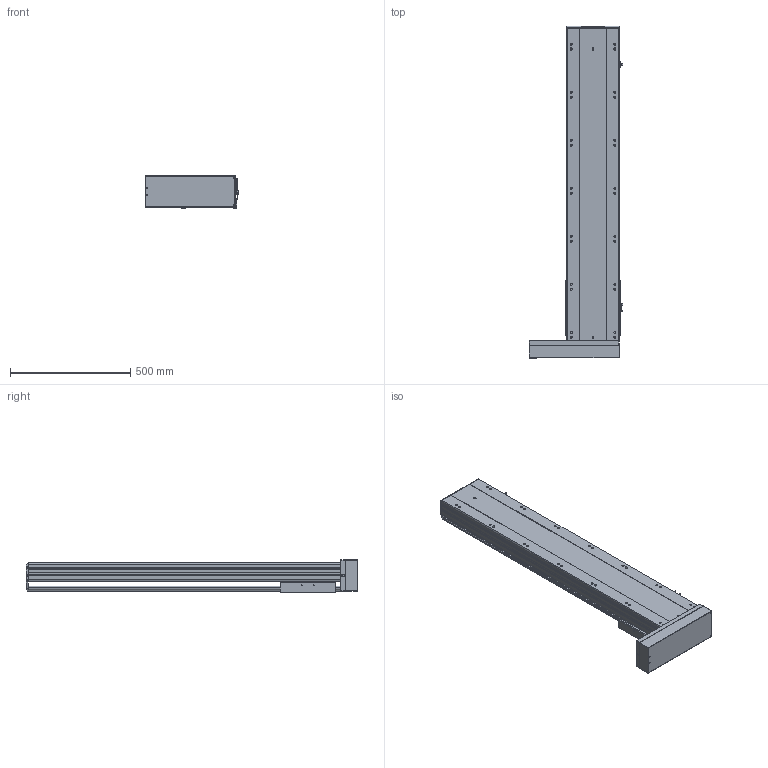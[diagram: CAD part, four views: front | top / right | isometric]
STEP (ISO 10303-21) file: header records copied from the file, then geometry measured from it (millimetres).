
FILE_DESCRIPTION (( 'STEP AP203' ), '1' );
FILE_NAME ('100.STEP', '2022-07-01T12:47:24', ( '' ), ( '' ), 'SwSTEP 2.0', 'SolidWorks 2016', '' );
FILE_SCHEMA (( 'CONFIG_CONTROL_DESIGN' ));
Products named in the file (7): BTH22-BL-04; BTH22-BL-菁釱; H130-PCD145; BTH22-BL-01; BTH22-BL-HZ; 100; BTH22-BL-06-PCD145
Assembly tree (8 placements, depth 2):
  100
    BTH22-BL-菁釱
    BTH22-BL-01
    BTH22-BL-04  x3
    BTH22-BL-HZ
    BTH22-BL-06-PCD145
    H130-PCD145
Bounding box: 389.2 x 1382 x 134 mm (x, y, z)
Volume: 17024422.2 mm3; surface area: 2316728.3 mm2
Topology: 10 solids, 10 shells, 1181 faces, 3273 edges, 2131 vertices
Faces by surface type: plane 634, cylinder 419, bspline 86, cone 42
Entity records: 122774 total; most frequent: CARTESIAN_POINT 56371, ORIENTED_EDGE 14165, DIRECTION 12490, EDGE_CURVE 7588, VERTEX_POINT 4944, AXIS2_PLACEMENT_3D 4592, VECTOR 3306, LINE 3306
